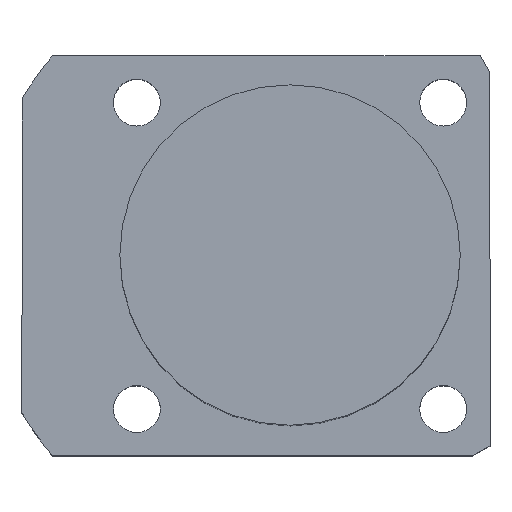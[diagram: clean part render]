
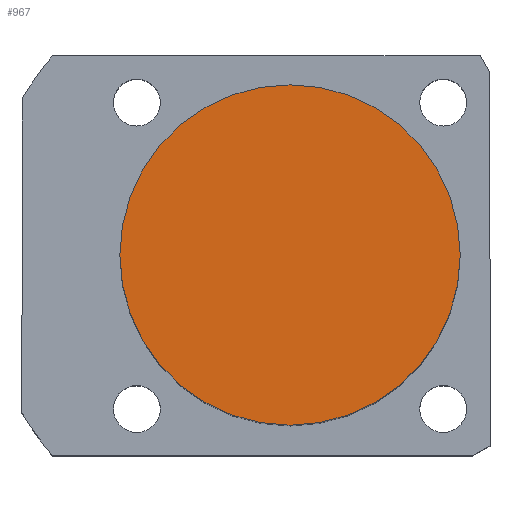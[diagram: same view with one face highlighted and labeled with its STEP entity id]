
A CAD part, top view. The second image highlights one B-rep face of the part: STEP entity #967.
In plain terms, the highlighted planar face has unit normal (0, 0, 1).
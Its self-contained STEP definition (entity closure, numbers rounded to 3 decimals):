
#68 = PLANE ( 'NONE',  #177 ) ;
#177 = AXIS2_PLACEMENT_3D ( 'NONE', #1730, #1213, #240 ) ;
#229 = DIRECTION ( 'NONE',  ( 1., 0., 0. ) ) ;
#240 = DIRECTION ( 'NONE',  ( 1., 0., 0. ) ) ;
#257 = AXIS2_PLACEMENT_3D ( 'NONE', #404, #1209, #229 ) ;
#324 = CIRCLE ( 'NONE', #257, 20. ) ;
#331 = CARTESIAN_POINT ( 'NONE',  ( 20., 0., 66.5 ) ) ;
#382 = EDGE_CURVE ( 'NONE', #734, #1452, #324, .T. ) ;
#404 = CARTESIAN_POINT ( 'NONE',  ( 0., 0., 66.5 ) ) ;
#536 = DIRECTION ( 'NONE',  ( 1., 0., 0. ) ) ;
#700 = CARTESIAN_POINT ( 'NONE',  ( 0., 0., 66.5 ) ) ;
#734 = VERTEX_POINT ( 'NONE', #331 ) ;
#967 = ADVANCED_FACE ( 'NONE', ( #2110 ), #68, .T. ) ;
#1107 = EDGE_CURVE ( 'NONE', #1452, #734, #1898, .T. ) ;
#1209 = DIRECTION ( 'NONE',  ( 0., 0., 1. ) ) ;
#1213 = DIRECTION ( 'NONE',  ( 0., 0., 1. ) ) ;
#1242 = ORIENTED_EDGE ( 'NONE', *, *, #1107, .T. ) ;
#1315 = CARTESIAN_POINT ( 'NONE',  ( -20., 0., 66.5 ) ) ;
#1452 = VERTEX_POINT ( 'NONE', #1315 ) ;
#1521 = AXIS2_PLACEMENT_3D ( 'NONE', #700, #2006, #536 ) ;
#1725 = ORIENTED_EDGE ( 'NONE', *, *, #382, .T. ) ;
#1730 = CARTESIAN_POINT ( 'NONE',  ( 0., 0., 66.5 ) ) ;
#1847 = EDGE_LOOP ( 'NONE', ( #1242, #1725 ) ) ;
#1898 = CIRCLE ( 'NONE', #1521, 20. ) ;
#2006 = DIRECTION ( 'NONE',  ( 0., 0., 1. ) ) ;
#2110 = FACE_OUTER_BOUND ( 'NONE', #1847, .T. ) ;
